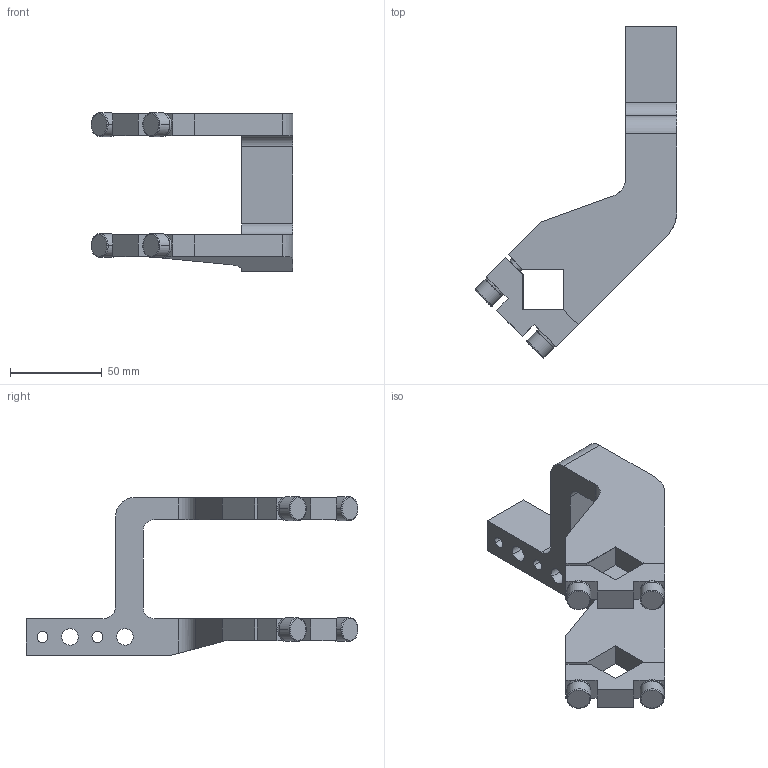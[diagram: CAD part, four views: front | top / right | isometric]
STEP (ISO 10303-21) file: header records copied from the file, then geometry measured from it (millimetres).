
FILE_DESCRIPTION(('CATIA V5 STEP Exchange'),'2;1');
FILE_NAME('E:\clampact\CLAMPACT\clampact\catalog\Clampact Arm\Arm 3D\Clampact Arm\arm_K63_45_A410_Clampact.stp','2022-12-06T08:10:29+00:00',('none'),('none'),'CATIA Version 5 Release 19 SP 6 (IN-10)','CATIA V5 STEP AP203','none');
FILE_SCHEMA(('CONFIG_CONTROL_DESIGN'));
Length unit declared in the file: millimetre
Products named in the file (1): K63_45_A41_Clampact_柯莱普
Bounding box: 110.22 x 181.22 x 86.5 mm (x, y, z)
Volume: 189226 mm3; surface area: 48345 mm2
Topology: 1 solids, 5 shells, 164 faces, 406 edges, 252 vertices
Faces by surface type: plane 84, cylinder 48, cone 20, torus 12
Entity records: 4574 total; most frequent: CARTESIAN_POINT 957, ORIENTED_EDGE 796, DIRECTION 592, EDGE_CURVE 398, VERTEX_POINT 252, AXIS2_PLACEMENT_3D 244, VECTOR 237, LINE 237
